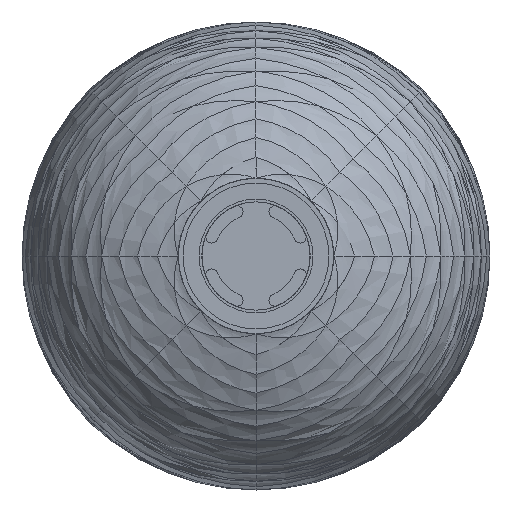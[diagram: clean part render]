
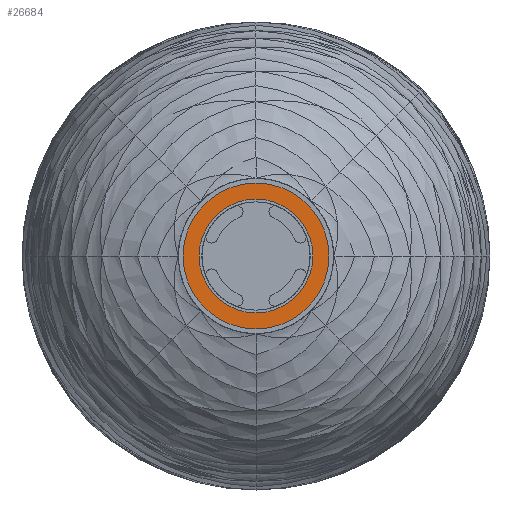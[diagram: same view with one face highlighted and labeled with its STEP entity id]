
A CAD part, front view. The second image highlights one B-rep face of the part: STEP entity #26684.
In plain terms, the highlighted planar face has unit normal (0, -1, 0).
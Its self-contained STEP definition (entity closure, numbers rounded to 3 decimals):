
#997 = CARTESIAN_POINT ( 'NONE',  ( -13., -1., 28. ) ) ;
#2346 = ORIENTED_EDGE ( 'NONE', *, *, #68294, .T. ) ;
#6726 = CARTESIAN_POINT ( 'NONE',  ( -13., -1., 13.25 ) ) ;
#7346 = CIRCLE ( 'NONE', #67105, 52. ) ;
#9283 = CARTESIAN_POINT ( 'NONE',  ( -13., -1., 80. ) ) ;
#14341 = ORIENTED_EDGE ( 'NONE', *, *, #52677, .F. ) ;
#17826 = ORIENTED_EDGE ( 'NONE', *, *, #63945, .T. ) ;
#19717 = CIRCLE ( 'NONE', #50174, 66.75 ) ;
#19968 = DIRECTION ( 'NONE',  ( 0., 0., 1. ) ) ;
#24519 = VERTEX_POINT ( 'NONE', #28634 ) ;
#24602 = VERTEX_POINT ( 'NONE', #6726 ) ;
#24855 = ORIENTED_EDGE ( 'NONE', *, *, #59228, .F. ) ;
#26684 = ADVANCED_FACE ( 'NONE', ( #62984, #68991 ), #37820, .F. ) ;
#28634 = CARTESIAN_POINT ( 'NONE',  ( -13., -1., 146.75 ) ) ;
#29907 = CIRCLE ( 'NONE', #59266, 66.75 ) ;
#30511 = EDGE_LOOP ( 'NONE', ( #2346, #17826 ) ) ;
#30919 = DIRECTION ( 'NONE',  ( 0., 1., 0. ) ) ;
#35621 = CARTESIAN_POINT ( 'NONE',  ( -13., -1., 80. ) ) ;
#37283 = CARTESIAN_POINT ( 'NONE',  ( -13., -1., 80. ) ) ;
#37820 = PLANE ( 'NONE',  #68316 ) ;
#40873 = EDGE_LOOP ( 'NONE', ( #24855, #14341 ) ) ;
#41270 = DIRECTION ( 'NONE',  ( 0., 1., 0. ) ) ;
#41966 = DIRECTION ( 'NONE',  ( 0., 0., 1. ) ) ;
#42341 = AXIS2_PLACEMENT_3D ( 'NONE', #37283, #30919, #19968 ) ;
#44314 = DIRECTION ( 'NONE',  ( 0., 0., 1. ) ) ;
#44667 = CARTESIAN_POINT ( 'NONE',  ( -13., -1., 80. ) ) ;
#46862 = CIRCLE ( 'NONE', #42341, 52. ) ;
#50174 = AXIS2_PLACEMENT_3D ( 'NONE', #35621, #66718, #57159 ) ;
#52677 = EDGE_CURVE ( 'NONE', #24602, #24519, #19717, .T. ) ;
#56582 = VERTEX_POINT ( 'NONE', #63645 ) ;
#57005 = DIRECTION ( 'NONE',  ( 0., 0., 1. ) ) ;
#57106 = VERTEX_POINT ( 'NONE', #997 ) ;
#57159 = DIRECTION ( 'NONE',  ( 0., 0., 1. ) ) ;
#59228 = EDGE_CURVE ( 'NONE', #24519, #24602, #29907, .T. ) ;
#59266 = AXIS2_PLACEMENT_3D ( 'NONE', #44667, #66538, #44314 ) ;
#59358 = DIRECTION ( 'NONE',  ( 0., 1., 0. ) ) ;
#62984 = FACE_BOUND ( 'NONE', #30511, .T. ) ;
#63645 = CARTESIAN_POINT ( 'NONE',  ( -13., -1., 132. ) ) ;
#63945 = EDGE_CURVE ( 'NONE', #57106, #56582, #46862, .T. ) ;
#66538 = DIRECTION ( 'NONE',  ( 0., 1., 0. ) ) ;
#66718 = DIRECTION ( 'NONE',  ( 0., 1., 0. ) ) ;
#67105 = AXIS2_PLACEMENT_3D ( 'NONE', #69844, #41270, #41966 ) ;
#68294 = EDGE_CURVE ( 'NONE', #56582, #57106, #7346, .T. ) ;
#68316 = AXIS2_PLACEMENT_3D ( 'NONE', #9283, #59358, #57005 ) ;
#68991 = FACE_OUTER_BOUND ( 'NONE', #40873, .T. ) ;
#69844 = CARTESIAN_POINT ( 'NONE',  ( -13., -1., 80. ) ) ;
